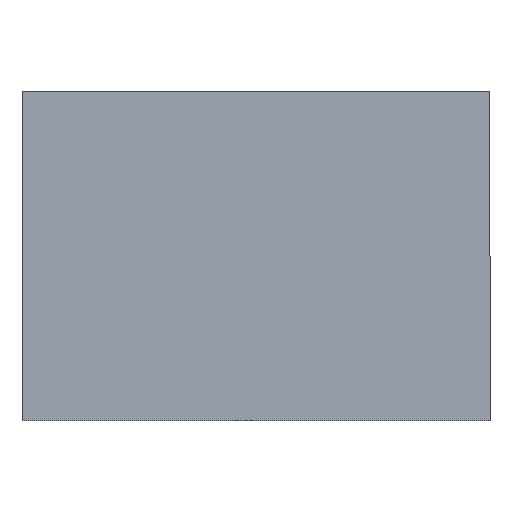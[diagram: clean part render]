
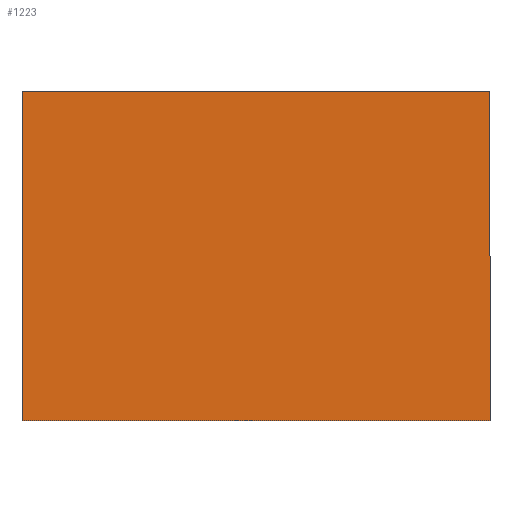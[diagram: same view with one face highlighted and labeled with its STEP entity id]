
A CAD part, front view. The second image highlights one B-rep face of the part: STEP entity #1223.
In plain terms, the highlighted planar face has unit normal (0, -1, 0).
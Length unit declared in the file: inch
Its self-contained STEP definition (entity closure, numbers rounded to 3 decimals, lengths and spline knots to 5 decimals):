
#52 = EDGE_CURVE ( 'NONE', #308, #765, #91, .T. ) ;
#91 = LINE ( 'NONE', #203, #894 ) ;
#95 = ORIENTED_EDGE ( 'NONE', *, *, #52, .T. ) ;
#100 = LINE ( 'NONE', #914, #1057 ) ;
#119 = DIRECTION ( 'NONE',  ( 0., 0., 1. ) ) ;
#133 = ORIENTED_EDGE ( 'NONE', *, *, #1212, .T. ) ;
#203 = CARTESIAN_POINT ( 'NONE',  ( -4.23, -3.08, -2.9775 ) ) ;
#229 = FACE_OUTER_BOUND ( 'NONE', #1166, .T. ) ;
#275 = CARTESIAN_POINT ( 'NONE',  ( -4.23, -3.08, 2.9775 ) ) ;
#301 = VECTOR ( 'NONE', #910, 39.37008 ) ;
#308 = VERTEX_POINT ( 'NONE', #593 ) ;
#320 = ORIENTED_EDGE ( 'NONE', *, *, #1153, .T. ) ;
#345 = CARTESIAN_POINT ( 'NONE',  ( 4.23, -3.08, -2.9775 ) ) ;
#394 = VECTOR ( 'NONE', #746, 39.37008 ) ;
#416 = VERTEX_POINT ( 'NONE', #1051 ) ;
#424 = DIRECTION ( 'NONE',  ( 1., 0., 0. ) ) ;
#495 = CARTESIAN_POINT ( 'NONE',  ( -4.23, -3.08, -2.9775 ) ) ;
#592 = LINE ( 'NONE', #275, #301 ) ;
#593 = CARTESIAN_POINT ( 'NONE',  ( -4.23, -3.08, 2.9775 ) ) ;
#615 = ORIENTED_EDGE ( 'NONE', *, *, #672, .T. ) ;
#620 = DIRECTION ( 'NONE',  ( 0., 0., -1. ) ) ;
#648 = PLANE ( 'NONE',  #657 ) ;
#657 = AXIS2_PLACEMENT_3D ( 'NONE', #1073, #1170, #119 ) ;
#672 = EDGE_CURVE ( 'NONE', #695, #308, #592, .T. ) ;
#695 = VERTEX_POINT ( 'NONE', #1019 ) ;
#746 = DIRECTION ( 'NONE',  ( 0., 0., 1. ) ) ;
#765 = VERTEX_POINT ( 'NONE', #495 ) ;
#839 = LINE ( 'NONE', #345, #394 ) ;
#894 = VECTOR ( 'NONE', #620, 39.37008 ) ;
#910 = DIRECTION ( 'NONE',  ( -1., 0., 0. ) ) ;
#914 = CARTESIAN_POINT ( 'NONE',  ( -4.23, -3.08, -2.9775 ) ) ;
#1019 = CARTESIAN_POINT ( 'NONE',  ( 4.23, -3.08, 2.9775 ) ) ;
#1051 = CARTESIAN_POINT ( 'NONE',  ( 4.23, -3.08, -2.9775 ) ) ;
#1057 = VECTOR ( 'NONE', #424, 39.37008 ) ;
#1073 = CARTESIAN_POINT ( 'NONE',  ( 3.49388, -3.08, -2.24138 ) ) ;
#1153 = EDGE_CURVE ( 'NONE', #765, #416, #100, .T. ) ;
#1166 = EDGE_LOOP ( 'NONE', ( #95, #320, #133, #615 ) ) ;
#1170 = DIRECTION ( 'NONE',  ( 0., 1., 0. ) ) ;
#1212 = EDGE_CURVE ( 'NONE', #416, #695, #839, .T. ) ;
#1223 = ADVANCED_FACE ( 'NONE', ( #229 ), #648, .F. ) ;
